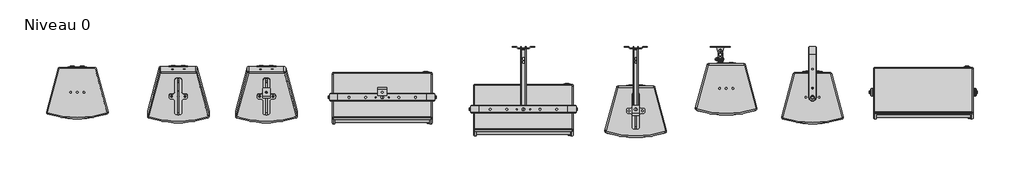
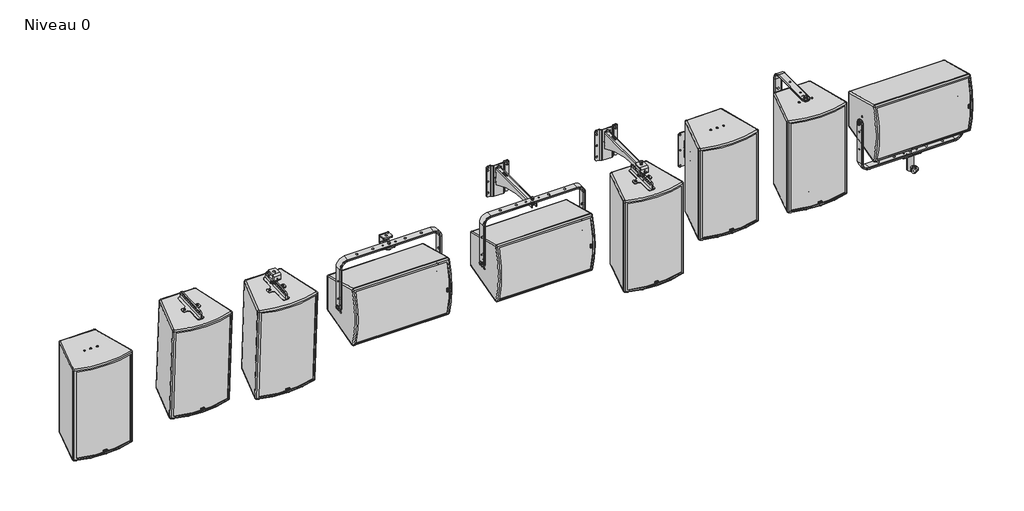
# One storey, incomplete: 9 proxies.
"""IFC4 building model written with IfcOpenShell, lengths in millimetres."""

from ifc_helpers import new_model, si_unit, origin, place, context, project, spatial, transform, mapped, element, save
from components import generic_models_c9349fff, generic_models_d41a29af, generic_models_7c8fd679, generic_models_50664358, generic_models_782d8a53, generic_models_739b781f, generic_models_40186b0a, generic_models_f4ac07a8, generic_models_0e3356a9, generic_models_0ea8e54b, generic_models_6117f933, generic_models_40b17b7d, eps12_vertical_731aaa63, pos_7_54a07403, pos_7_1f363d26, pos_7_3f01e1d3, pos8_c1b8ba12, pos8_370ce32c, pos8_ceda2ec0

model = new_model("IFC4")

# Units and contexts
model_context = context("Model", 3, world=origin())
ifc_project = project(units=[si_unit("LENGTHUNIT", "METRE", prefix="MILLI")], contexts=[model_context])

# Site, building, storey
site = spatial("IfcSite", under=ifc_project)
building = spatial("IfcBuilding", under=site)
storey = spatial("IfcBuildingStorey", under=building, Name="Niveau 0", Elevation=0.0)

# Proxies
placement = place(None, origin())
generic_models_shape = generic_models_c9349fff(model_context)
generic_models_2_shape = generic_models_d41a29af(model_context)
element("IfcBuildingElementProxy", 1, Name="ePS12-HBRK600-CHM : ePS12-HBRK600-CHM", ObjectType="ePS12-HBRK600-CHM : ePS12-HBRK600-CHM", at=placement, inside=storey, context=model_context, shape_type="MappedRepresentation", body=[
    mapped(generic_models_shape, transform((5393.3016096, 3313.7964559, 0.0), x_axis=(1.0, 0.0, 0.0), y_axis=(0.0, 1.0, 0.0), z_axis=(0.0, 0.0, 1.0))),
    mapped(generic_models_2_shape, transform((5393.3016096, 3313.7964559, 0.0), x_axis=(1.0, 0.0, 0.0), y_axis=(0.0, 1.0, 0.0), z_axis=(0.0, 0.0, 1.0))),
])
generic_models_3_shape = generic_models_7c8fd679(model_context)
generic_models_4_shape = generic_models_50664358(model_context)
element("IfcBuildingElementProxy", 2, Name="ePS12-HBRK600-SHM : ePS12-HBRK600-SHM", ObjectType="ePS12-HBRK600-SHM : ePS12-HBRK600-SHM", at=placement, inside=storey, context=model_context, shape_type="MappedRepresentation", body=[
    mapped(generic_models_3_shape, transform((8649.4906284, 3313.7964559, -600.0), x_axis=(1.0, 0.0, 0.0), y_axis=(0.0, 1.0, 0.0), z_axis=(0.0, 0.0, 1.0))),
    mapped(generic_models_4_shape, transform((8649.4906284, 3313.7964559, -600.0), x_axis=(1.0, 0.0, 0.0), y_axis=(0.0, 1.0, 0.0), z_axis=(0.0, 0.0, 1.0))),
])
generic_models_5_shape = generic_models_782d8a53(model_context)
generic_models_6_shape = generic_models_739b781f(model_context)
element("IfcBuildingElementProxy", 3, Name="ePS12-HBRK600-WVM : ePS12-HBRK600-WVM", ObjectType="ePS12-HBRK600-WVM : ePS12-HBRK600-WVM", at=placement, inside=storey, context=model_context, shape_type="MappedRepresentation", body=[
    mapped(generic_models_5_shape, transform((7982.0676221, 3590.7102208, -300.0), x_axis=(1.0, 0.0, 0.0), y_axis=(0.0, 1.0, 0.0), z_axis=(0.0, 0.0, 1.0))),
    mapped(generic_models_6_shape, transform((7982.0676221, 3590.7102208, -300.0), x_axis=(1.0, 0.0, 0.0), y_axis=(0.0, 1.0, 0.0), z_axis=(0.0, 0.0, 1.0))),
])
generic_models_7_shape = generic_models_40186b0a(model_context)
generic_models_8_shape = generic_models_f4ac07a8(model_context)
generic_models_9_shape = generic_models_0e3356a9(model_context)
element("IfcBuildingElementProxy", 4, Name="ePS12-WM380-HBRK600-WHM : ePS12-WM380-HBRK600-WHM", ObjectType="ePS12-WM380-HBRK600-WHM : ePS12-WM380-HBRK600-WHM", at=placement, inside=storey, context=model_context, shape_type="MappedRepresentation", body=[
    mapped(generic_models_7_shape, transform((6242.680536, 3590.7102208, 0.0), x_axis=(1.0, 0.0, 0.0), y_axis=(0.0, 1.0, 0.0), z_axis=(0.0, 0.0, 1.0))),
    mapped(generic_models_8_shape, transform((6242.680536, 3590.7102208, 0.0), x_axis=(1.0, 0.0, 0.0), y_axis=(0.0, 1.0, 0.0), z_axis=(0.0, 0.0, 1.0))),
    mapped(generic_models_9_shape, transform((6242.680536, 3590.7102208, 0.0), x_axis=(1.0, 0.0, 0.0), y_axis=(0.0, 1.0, 0.0), z_axis=(0.0, 0.0, 1.0))),
])
generic_models_10_shape = generic_models_0ea8e54b(model_context)
generic_models_11_shape = generic_models_6117f933(model_context)
generic_models_12_shape = generic_models_40b17b7d(model_context)
element("IfcBuildingElementProxy", 5, Name="ePS12-WM02-WVM : ePS12-WM02-WVM", ObjectType="ePS12-WM02-WVM : ePS12-WM02-WVM", at=placement, inside=storey, context=model_context, shape_type="MappedRepresentation", body=[
    mapped(generic_models_10_shape, transform((7427.7667938, 3590.7102208, -300.0), x_axis=(1.0, 0.0, 0.0), y_axis=(0.0, 1.0, 0.0), z_axis=(0.0, 0.0, 1.0))),
    mapped(generic_models_11_shape, transform((7427.7667938, 3590.7102208, -300.0), x_axis=(1.0, 0.0, 0.0), y_axis=(0.0, 1.0, 0.0), z_axis=(0.0, 0.0, 1.0))),
    mapped(generic_models_12_shape, transform((7427.7667938, 3590.7102208, -300.0), x_axis=(1.0, 0.0, 0.0), y_axis=(0.0, 1.0, 0.0), z_axis=(0.0, 0.0, 1.0))),
])
eps12_vertical_shape = eps12_vertical_731aaa63(model_context)
element("IfcBuildingElementProxy", 6, Name="ePS12 : Vertical", ObjectType="ePS12 : Vertical", at=placement, inside=storey, context=model_context, shape_type="MappedRepresentation", body=[
    mapped(eps12_vertical_shape, transform((3558.4094903, 3313.7964559, -400.0), x_axis=(1.0, 0.0, 0.0), y_axis=(0.0, 1.0, 0.0), z_axis=(0.0, 0.0, 1.0))),
])
pos_7_shape = pos_7_54a07403(model_context)
pos_7_2_shape = pos_7_1f363d26(model_context)
pos_7_3_shape = pos_7_3f01e1d3(model_context)
element("IfcBuildingElementProxy", 7, Name="ePS12-WM380-BUMP-WVM : pos 7", ObjectType="ePS12-WM380-BUMP-WVM : pos 7", at=placement, inside=storey, context=model_context, shape_type="MappedRepresentation", body=[
    mapped(pos_7_shape, transform((6918.4659655, 3590.7102208, 0.0), x_axis=(1.0, 0.0, 0.0), y_axis=(0.0, 1.0, 0.0), z_axis=(0.0, 0.0, 1.0))),
    mapped(pos_7_2_shape, transform((6918.4659655, 3590.7102208, 0.0), x_axis=(1.0, 0.0, 0.0), y_axis=(0.0, 1.0, 0.0), z_axis=(0.0, 0.0, 1.0))),
    mapped(pos_7_3_shape, transform((6918.4659655, 3590.7102208, 0.0), x_axis=(1.0, 0.0, 0.0), y_axis=(0.0, 1.0, 0.0), z_axis=(0.0, 0.0, 1.0))),
])
pos8_shape = pos8_c1b8ba12(model_context)
pos8_2_shape = pos8_370ce32c(model_context)
element("IfcBuildingElementProxy", 8, Name="ePS12-BUMP-CVM : pos8", ObjectType="ePS12-BUMP-CVM : pos8", at=placement, inside=storey, context=model_context, shape_type="MappedRepresentation", body=[
    mapped(pos8_shape, transform((4696.07235, 3313.7964559, 0.0), x_axis=(1.0, 0.0, 0.0), y_axis=(0.0, 1.0, 0.0), z_axis=(0.0, 0.0, 1.0))),
    mapped(pos8_2_shape, transform((4696.07235, 3313.7964559, 0.0), x_axis=(1.0, 0.0, 0.0), y_axis=(0.0, 1.0, 0.0), z_axis=(0.0, 0.0, 1.0))),
])
pos8_3_shape = pos8_ceda2ec0(model_context)
element("IfcBuildingElementProxy", 9, Name="ePS12-BUMP-TRUSSVM : pos8", ObjectType="ePS12-BUMP-TRUSSVM : pos8", at=placement, inside=storey, context=model_context, shape_type="MappedRepresentation", body=[
    mapped(pos8_3_shape, transform((4165.9028406, 3313.7964559, 0.0), x_axis=(1.0, 0.0, 0.0), y_axis=(0.0, 1.0, 0.0), z_axis=(0.0, 0.0, 1.0))),
])

save(model, "model.ifc")
